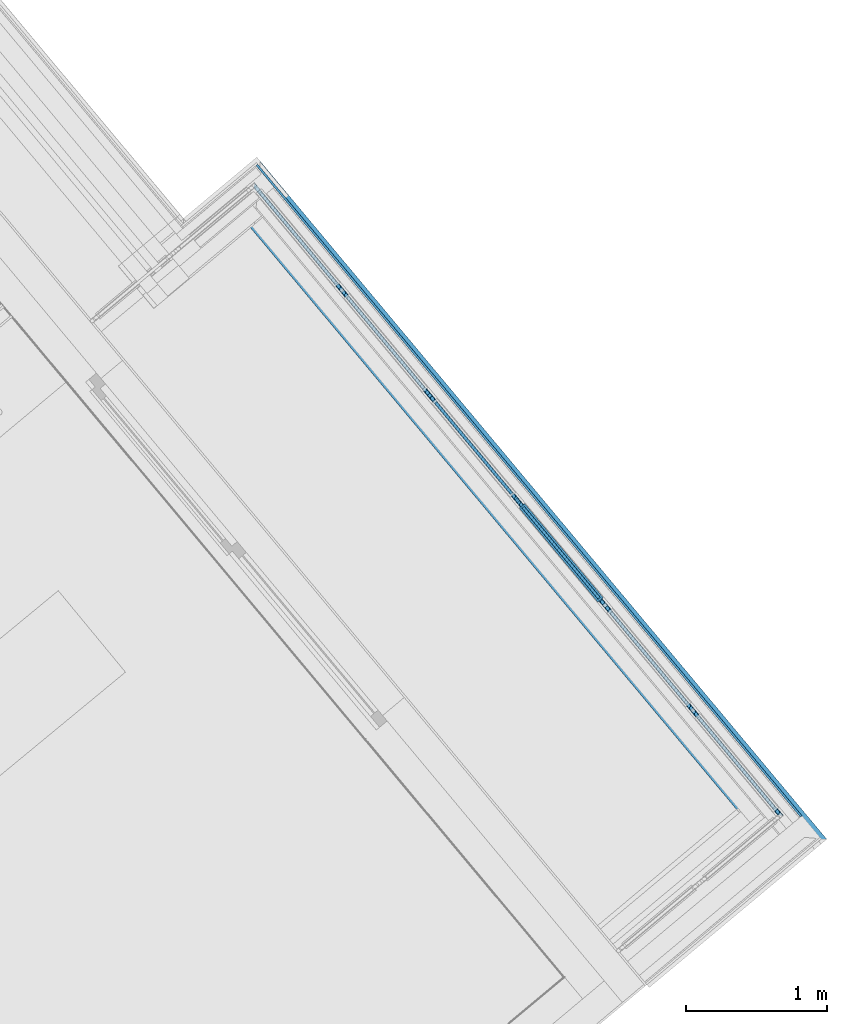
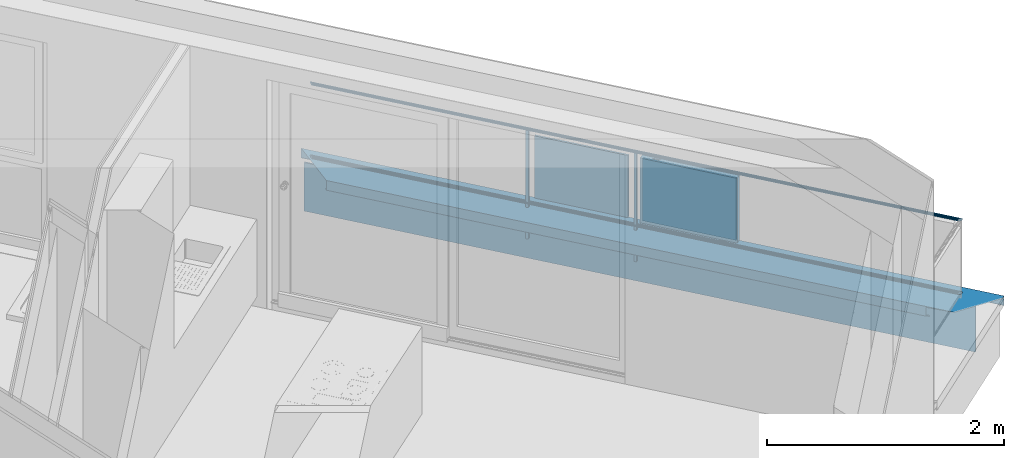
# One storey, part 41 of 61: 9 building element parts, 2 elements without a shape of their own.
"""IFC4 building model written with IfcOpenShell, lengths in metres."""

from ifc_helpers import new_model, entity, si_unit, converted_unit, derived_unit, direction, frame, origin_with_axes, place, context, subcontext, project, spatial, polygons, material, type_object, element, aggregate, save


model = new_model("IFC4")

# Units and contexts
model_context = context("Model", 3, precision=1e-05, world=origin_with_axes(), true_north=direction((0.0, 1.0)))
body_context = subcontext(model_context, "Body", "Model", "MODEL_VIEW")
ifc_project = project(units=[si_unit("LENGTHUNIT", "METRE"), si_unit("AREAUNIT", "SQUARE_METRE"), si_unit("VOLUMEUNIT", "CUBIC_METRE"), converted_unit("PLANEANGLEUNIT", "DEGREE", entity("IfcPlaneAngleMeasure", 0.0174532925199), si_unit("PLANEANGLEUNIT", "RADIAN"), dimensions=[0, 0, 0, 0, 0, 0, 0]), converted_unit("TIMEUNIT", "Year", entity("IfcTimeMeasure", 31556926.0), si_unit("TIMEUNIT", "SECOND"), dimensions=[0, 0, 1, 0, 0, 0, 0]), si_unit("MASSUNIT", "GRAM", prefix="KILO"), si_unit("THERMODYNAMICTEMPERATUREUNIT", "DEGREE_CELSIUS"), si_unit("LUMINOUSINTENSITYUNIT", "LUMEN"), si_unit("ENERGYUNIT", "JOULE", prefix="MEGA"), derived_unit("THERMALCONDUCTANCEUNIT", [(si_unit("POWERUNIT", "WATT"), 1), (si_unit("LENGTHUNIT", "METRE"), -1), (si_unit("THERMODYNAMICTEMPERATUREUNIT", "KELVIN"), -1)]), derived_unit("SPECIFICHEATCAPACITYUNIT", [(si_unit("ENERGYUNIT", "JOULE"), 1), (si_unit("MASSUNIT", "GRAM", prefix="KILO"), -1), (si_unit("THERMODYNAMICTEMPERATUREUNIT", "KELVIN"), -1)]), derived_unit("MASSDENSITYUNIT", [(si_unit("MASSUNIT", "GRAM", prefix="KILO"), 1), (si_unit("VOLUMEUNIT", "CUBIC_METRE"), -1)])], contexts=[model_context])

# Site, building, storey
site_placement = place(None, frame((-0.00153261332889, -0.00661245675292, 0.0), z_axis=(0.0, 0.0, 1.0), x_axis=(1.0, 0.0, 0.0)))
site = spatial("IfcSite", under=ifc_project, at=site_placement, Name="Gelände", CompositionType="ELEMENT")
building_placement = place(site_placement, origin_with_axes())
building = spatial("IfcBuilding", under=site, at=building_placement, Name="Gebäude", CompositionType="ELEMENT")
storey_placement = place(building_placement, frame((0.0, 0.0, 5.7), z_axis=(0.0, 0.0, 1.0), x_axis=(1.0, 0.0, 0.0)))
storey = spatial("IfcBuildingStorey", under=building, at=storey_placement, Name="DG1", CompositionType="ELEMENT", Elevation=5.7)

# Wall, building element parts
wall_type = type_object("IfcWallType", Name="Bauteil - Attika Balkon 356 x 610", PredefinedType="NOTDEFINED")
wall_placement = place(storey_placement, frame((10.5963712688, 25.814957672, -0.2), z_axis=(0.0, 0.0, 1.0), x_axis=(0.641206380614, -0.767368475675, 0.0)))
wall = element("IfcWall", 1, at=wall_placement, inside=storey, type_object=wall_type, Name="Wand-004", PredefinedType="NOTDEFINED")
ifc_material_1 = material(Name="Zementputz")
building_element_part_1_placement = place(wall_placement, origin_with_axes())
building_element_part_1 = element("IfcBuildingElementPart", 2, at=building_element_part_1_placement, material=ifc_material_1, Name="Zementputz", PredefinedType="NOTDEFINED", context=body_context, shape_type="Tessellation", body=[
    polygons([(5.82966833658, 0.199999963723, 0.500000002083), (5.82966827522, 0.214999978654, 0.500000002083), (-0.200000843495, 0.214999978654, 0.500000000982), (-0.200000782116, 0.199999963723, 0.500000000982), (5.82966827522, 0.214999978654, 0.498915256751), (5.82966833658, 0.199999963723, 0.498915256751), (5.82966827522, 0.214999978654, 0.498822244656), (5.82966827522, 0.214999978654, 0.496604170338), (5.82966827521, 0.214999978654, 0.491006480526), (5.82966827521, 0.214999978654, 0.488695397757), (5.82966827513, 0.214999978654, 0.335), (5.82966827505, 0.214999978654, 0.200000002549), (5.82966827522, 0.214999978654, 0.0), (-0.200000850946, 0.214999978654, 0.0), (-0.200000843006, 0.214999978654, 0.2), (-0.200000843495, 0.214999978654, 0.334999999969), (-0.200000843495, 0.214999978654, 0.496604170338), (-0.200000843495, 0.214999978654, 0.498915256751), (-0.200000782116, 0.199999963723, 0.498915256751), (-0.200000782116, 0.199999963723, 0.496604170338), (-0.200000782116, 0.199999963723, 0.334999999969), (-0.200000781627, 0.199999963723, 0.2), (5.82966833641, 0.199999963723, 0.200000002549), (5.82966833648, 0.199999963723, 0.335), (5.82966833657, 0.199999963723, 0.488695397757), (5.82966833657, 0.199999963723, 0.491006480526), (5.82966833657, 0.199999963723, 0.496604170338), (5.82966833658, 0.199999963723, 0.498822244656), (5.82966833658, 0.199999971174, 0.0), (-0.200000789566, 0.199999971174, 0.0)], [[[1, 2, 3, 4]], [[5, 2, 1, 6]], [[2, 5, 7, 8, 9, 10, 11, 12, 13, 14, 15, 16, 17, 18, 3]], [[4, 3, 18, 19]], [[6, 1, 4, 19, 20, 21, 22, 23, 24, 25, 26, 27, 28]], [[5, 6, 28, 7]], [[7, 28, 27, 8]], [[8, 27, 26, 9]], [[9, 26, 25, 10]], [[10, 25, 24, 11]], [[11, 24, 23, 12]], [[12, 23, 29, 13]], [[13, 29, 30, 14]], [[22, 15, 14, 30]], [[21, 16, 15, 22]], [[20, 17, 16, 21]], [[19, 18, 17, 20]], [[29, 23, 22, 30]]], closed=True),
])
ifc_material_2 = material(Name="Stahl")
building_element_part_2_placement = place(wall_placement, origin_with_axes())
building_element_part_2 = element("IfcBuildingElementPart", 3, at=building_element_part_2_placement, material=ifc_material_2, Name="Stahl", PredefinedType="NOTDEFINED", context=body_context, shape_type="Tessellation", body=[
    polygons([(0.113601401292, -0.113600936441, 0.498915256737), (0.113601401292, -0.11360093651, 0.499999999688), (0.113601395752, -0.112247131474, 0.499999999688), (0.113601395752, -0.112247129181, 0.498915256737), (0.113601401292, -0.113600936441, 0.497561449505), (5.49897152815, -0.113600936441, 0.497561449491), (5.49897152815, -0.113600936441, 0.498822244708), (5.49897152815, -0.113600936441, 0.498915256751), (5.49897152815, -0.11360093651, 0.499999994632), (5.49897152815, -0.113600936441, 0.506731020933), (5.49897152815, -0.113600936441, 0.509050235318), (5.49897152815, -0.113600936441, 0.509099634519), (5.49897152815, -0.11360093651, 0.51136132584), (5.49897152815, -0.11360093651, 0.511410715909), (5.49897152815, -0.1136009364, 0.519224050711), (5.49897152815, -0.1136009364, 0.519273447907), (5.49897152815, -0.11360093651, 0.560000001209), (5.49897152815, -0.11360093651, 0.567947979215), (5.49897152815, -0.11360093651, 0.57388065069), (5.49897152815, -0.11360093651, 0.575576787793), (5.49897152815, -0.11360093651, 0.575979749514), (5.49897152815, -0.11360093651, 0.57982217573), (5.49897152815, -0.11360093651, 0.581921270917), (5.49897152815, -0.11360093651, 0.584015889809), (5.49897152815, -0.11360093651, 0.586106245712), (5.49897153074, -0.11360093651, 0.587937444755), (5.71744240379, -0.11360093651, 0.595846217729), (5.75350991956, -0.11360093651, 0.597151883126), (0.113601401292, -0.11360093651, 0.597151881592), (0.113601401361, -0.11360093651, 0.595846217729), (0.113601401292, -0.11360093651, 0.586106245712), (0.113601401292, -0.11360093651, 0.584015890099), (0.113601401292, -0.11360093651, 0.581921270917), (0.113601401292, -0.11360093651, 0.57982217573), (0.113601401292, -0.11360093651, 0.575576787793), (0.113601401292, -0.11360093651, 0.559999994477), (0.113601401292, -0.1136009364, 0.519273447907), (0.113601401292, -0.11360093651, 0.511410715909), (0.113601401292, -0.113600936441, 0.509099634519), (0.113601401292, -0.113600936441, 0.506731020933), (0.113601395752, -0.112247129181, 0.506731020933), (0.113601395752, -0.112247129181, 0.509099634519), (0.113601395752, -0.112247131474, 0.511410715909), (0.113601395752, -0.112247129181, 0.519273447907), (0.113601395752, -0.112247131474, 0.559999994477), (0.113601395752, -0.112247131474, 0.575576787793), (0.113601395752, -0.112247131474, 0.57982217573), (0.113601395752, -0.112247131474, 0.581921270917), (0.113601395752, -0.112247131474, 0.584015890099), (0.113601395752, -0.112247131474, 0.586106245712), (0.113601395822, -0.112247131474, 0.595846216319), (5.71744235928, -0.112247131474, 0.595846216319), (5.4989715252, -0.112247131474, 0.587937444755), (5.49897152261, -0.112247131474, 0.586106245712), (5.49897152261, -0.112247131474, 0.584015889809), (5.49897152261, -0.112247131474, 0.581921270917), (5.49897152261, -0.112247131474, 0.57982217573), (5.49897152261, -0.112247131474, 0.575979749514), (5.49897152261, -0.112247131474, 0.575576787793), (5.49897152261, -0.112247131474, 0.57388065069), (5.49897152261, -0.112247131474, 0.567947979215), (5.49897152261, -0.112247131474, 0.560000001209), (5.49897152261, -0.112247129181, 0.519273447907), (5.49897152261, -0.112247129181, 0.519224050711), (5.49897152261, -0.112247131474, 0.511410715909), (5.49897152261, -0.112247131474, 0.51136132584), (5.49897152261, -0.112247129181, 0.509099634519), (5.49897152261, -0.112247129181, 0.509050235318), (5.49897152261, -0.112247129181, 0.506731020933), (5.49897152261, -0.112247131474, 0.499999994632), (5.49897152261, -0.112247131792, 0.498915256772), (0.113601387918, -0.110332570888, 0.498915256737), (0.113601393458, -0.11168637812, 0.497561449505), (0.11264411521, -0.112643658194, 0.496604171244), (5.49897152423, -0.112643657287, 0.496604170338), (5.49897151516, -0.110425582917, 0.498822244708), (5.49897151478, -0.110332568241, 0.498915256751), (6.06894466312, 0.23927660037, 0.608570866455), (6.06894481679, 0.201708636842, 0.608570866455), (-0.201709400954, 0.20170855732, 0.608570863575), (6.06982112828, 0.202589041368, 0.608602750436), (6.0711685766, 0.202589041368, 0.608602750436), (6.07116841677, 0.241343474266, 0.610006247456), (5.82966915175, 0.241343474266, 0.610006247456), (5.82966915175, 0.242707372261, 0.610055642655), (-0.242708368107, 0.242707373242, 0.610055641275), (-0.203953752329, 0.203952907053, 0.608652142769), (0.113601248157, -0.0761775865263, 0.597151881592), (-0.201709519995, 0.239276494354, 0.608570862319), (0.112247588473, -0.112247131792, 0.498915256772), (5.49897151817, -0.111162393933, 0.499999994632), (5.52966960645, -0.111162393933, 0.499999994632), (5.52966957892, -0.104431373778, 0.506731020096), (0.104431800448, -0.104431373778, 0.506731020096), (0.11116284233, -0.111162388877, 0.499999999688), (0.112247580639, -0.110332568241, 0.498915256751), (0.111162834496, -0.109247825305, 0.499999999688), (0.105342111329, -0.103427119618, 0.505820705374), (5.52966957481, -0.103427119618, 0.505820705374), (5.52966959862, -0.109247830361, 0.499999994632), (5.49897151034, -0.109247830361, 0.499999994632), (6.06982097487, 0.240093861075, 0.608602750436), (6.07116842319, 0.240093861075, 0.608602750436), (6.07116841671, 0.24135992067, 0.60865214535), (6.07116841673, 0.241353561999, 0.511410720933), (6.0711684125, 0.242707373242, 0.511410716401), (6.0711684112, 0.242707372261, 0.610006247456), (5.82966915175, 0.242707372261, 0.610006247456), (-0.24135455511, 0.242707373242, 0.511410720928), (-0.241355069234, 0.242707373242, 0.519273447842), (-0.241357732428, 0.242707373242, 0.559999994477), (-0.241358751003, 0.242707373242, 0.575576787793), (-0.241359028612, 0.242707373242, 0.57982217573), (-0.241359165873, 0.242707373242, 0.581921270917), (-0.241359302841, 0.242707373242, 0.584015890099), (-0.241359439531, 0.242707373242, 0.586106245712), (-0.241360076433, 0.242707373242, 0.595846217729), (-0.241360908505, 0.242707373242, 0.608570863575), (-0.241360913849, 0.242707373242, 0.608652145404), (-0.203953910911, 0.242707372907, 0.608652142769), (6.06981460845, 0.242707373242, 0.511410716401), (6.06976521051, 0.242707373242, 0.511410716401), (6.06981460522, 0.242707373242, 0.51136132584), (6.0711684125, 0.242707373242, 0.51136132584), (6.0711684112, 0.242707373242, 0.510056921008), (-0.240793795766, 0.242707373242, 0.510056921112), (-0.239439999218, 0.242707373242, 0.511410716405), (-0.203953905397, 0.24135985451, 0.608652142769), (-0.241354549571, 0.241353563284, 0.511410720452), (-0.239439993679, 0.241353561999, 0.511410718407), (6.06976521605, 0.241353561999, 0.511410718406), (6.06981461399, 0.241353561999, 0.511410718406), (-0.241360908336, 0.241359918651, 0.608652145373), (-0.241360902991, 0.241359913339, 0.608570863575), (-0.241360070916, 0.241359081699, 0.595846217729), (-0.241359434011, 0.241358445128, 0.586106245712), (-0.241359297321, 0.241358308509, 0.584015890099), (-0.241359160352, 0.241358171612, 0.581921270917), (-0.24135902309, 0.241358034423, 0.57982217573), (-0.241358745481, 0.241357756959, 0.575576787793), (-0.241357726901, 0.241356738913, 0.559999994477), (-0.241355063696, 0.241354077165, 0.519273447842), (6.06976522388, 0.239439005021, 0.511410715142), (6.06981461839, 0.239488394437, 0.51136132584), (6.07116842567, 0.239488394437, 0.51136132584), (6.07116841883, 0.240842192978, 0.510007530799), (6.0711684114, 0.242657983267, 0.510007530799), (-0.241751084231, 0.241750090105, 0.509099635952), (6.07026053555, 0.241750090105, 0.509099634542), (-0.239439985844, 0.239439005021, 0.511410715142), (-0.232581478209, 0.234495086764, 0.518269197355), (-0.233491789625, 0.233490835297, 0.519273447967), (6.06981516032, 0.233490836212, 0.519273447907), (6.06981515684, 0.233540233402, 0.519224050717), (6.06195191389, 0.233540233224, 0.519224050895), (-0.232581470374, 0.232580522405, 0.518269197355), (6.06290676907, 0.232580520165, 0.518269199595), (6.06195191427, 0.233446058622, 0.519224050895), (6.06981515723, 0.233446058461, 0.519224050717)], [[[1, 2, 3, 4]], [[1, 5, 6, 7, 8, 9, 10, 11, 12, 13, 14, 15, 16, 17, 18, 19, 20, 21, 22, 23, 24, 25, 26, 27, 28, 29, 30, 31, 32, 33, 34, 35, 36, 37, 38, 39, 40, 2]], [[2, 40, 41, 3]], [[4, 3, 41, 42, 43, 44, 45, 46, 47, 48, 49, 50, 51, 52, 53, 54, 55, 56, 57, 58, 59, 60, 61, 62, 63, 64, 65, 66, 67, 68, 69, 70, 71]], [[5, 1, 4, 72, 73]], [[5, 74, 75, 6]], [[7, 6, 75, 76]], [[8, 7, 76, 77, 71]], [[9, 8, 71, 70]], [[9, 70, 69, 10]], [[11, 10, 69, 68]], [[12, 11, 68, 67]], [[13, 12, 67, 66]], [[14, 13, 66, 65]], [[14, 65, 64, 15]], [[16, 15, 64, 63]], [[17, 16, 63, 62]], [[18, 17, 62, 61]], [[19, 18, 61, 60]], [[20, 19, 60, 59]], [[21, 20, 59, 58]], [[22, 21, 58, 57]], [[23, 22, 57, 56]], [[24, 23, 56, 55]], [[24, 55, 54, 25]], [[26, 25, 54, 53]], [[27, 26, 53, 52]], [[27, 52, 78, 79, 28]], [[80, 29, 28, 79, 81, 82, 83, 84, 85, 86, 87]], [[30, 29, 88, 51]], [[31, 30, 51, 50]], [[49, 32, 31, 50]], [[48, 33, 32, 49]], [[34, 33, 48, 47]], [[35, 34, 47, 46]], [[36, 35, 46, 45]], [[36, 45, 44, 37]], [[43, 38, 37, 44]], [[39, 38, 43, 42]], [[40, 39, 42, 41]], [[51, 88, 89, 78, 52]], [[90, 4, 71, 91, 92, 93, 94, 95]], [[4, 90, 96, 72]], [[74, 73, 72, 96, 97, 98, 99, 100, 101, 77, 76, 75]], [[74, 5, 73]], [[71, 77, 101, 91]], [[81, 79, 78, 102]], [[29, 80, 89, 88]], [[82, 81, 102, 103]], [[82, 103, 104, 105, 106, 107, 83]], [[84, 83, 107, 108]], [[84, 108, 85]], [[109, 110, 111, 112, 113, 114, 115, 116, 117, 118, 119, 120, 86, 85, 108, 107, 106, 121, 122, 123, 124, 125, 126, 127]], [[87, 86, 120, 128]], [[80, 87, 128, 89]], [[128, 104, 103, 102, 78, 89]], [[100, 92, 91, 101]], [[92, 100, 99, 93]], [[98, 94, 93, 99]], [[97, 95, 94, 98]], [[96, 90, 95, 97]], [[129, 130, 131, 132, 105, 104, 128, 133, 134, 135, 136, 137, 138, 139, 140, 141, 142]], [[105, 132, 121, 106]], [[129, 142, 110, 109]], [[142, 141, 111, 110]], [[141, 140, 112, 111]], [[140, 139, 113, 112]], [[139, 138, 114, 113]], [[138, 137, 115, 114]], [[137, 136, 116, 115]], [[136, 135, 117, 116]], [[135, 134, 118, 117]], [[134, 133, 119, 118]], [[133, 128, 120, 119]], [[132, 131, 122, 121]], [[143, 144, 123, 122, 131]], [[144, 145, 124, 123]], [[145, 146, 147, 125, 124]], [[148, 126, 125, 147, 149]], [[150, 130, 127, 126, 148]], [[130, 129, 109, 127]], [[151, 152, 153, 154, 155, 131, 130]], [[156, 150, 148, 149, 146, 145, 144, 143, 157]], [[157, 143, 131, 155, 158]], [[146, 149, 147]], [[150, 156, 151, 130]], [[151, 156, 152]], [[152, 156, 157, 158, 159, 153]], [[153, 159, 154]], [[154, 159, 158, 155]]], closed=True),
])
aggregate(wall, [building_element_part_1, building_element_part_2])

# Space
space_placement = place(storey_placement, frame((9.89495575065, 25.0808160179, 0.22), z_axis=(0.0, 0.0, 1.0), x_axis=(-0.767365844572, -0.641209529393, 0.0)))
space = spatial("IfcSpace", under=storey, at=space_placement, CompositionType="ELEMENT", PredefinedType="NOTDEFINED")

# Railing, building element parts
railing_type = type_object("IfcRailingType", Name="Geländerart", PredefinedType="NOTDEFINED")
railing_placement = place(space_placement, frame((0.391162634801, 5.51606821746, 0.16), z_axis=(0.0, 0.0, 1.0), x_axis=(-0.767365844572, 0.641209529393, 0.0)))
railing = element("IfcRailing", 4, at=railing_placement, inside=space, type_object=railing_type, Name="Geländer - 001", PredefinedType="NOTDEFINED")
ifc_material_3 = material(Name="Aluminium")
building_element_part_3_placement = place(railing_placement, origin_with_axes())
building_element_part_3 = element("IfcBuildingElementPart", 5, at=building_element_part_3_placement, material=ifc_material_3, Name="Aluminium", PredefinedType="NOTDEFINED", context=body_context, shape_type="Tessellation", body=[
    polygons([(1.19369716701, 0.886396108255, 0.825), (1.1940181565, 0.886367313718, 0.827604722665), (-2.52461931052, 5.33785427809, 0.827604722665), (-2.52464808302, 5.33753326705, 0.825), (1.1940181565, 0.886367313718, 0.822395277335), (1.19497137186, 0.886281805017, 0.81986969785), (1.19652785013, 0.88614218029, 0.8175), (1.1986402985, 0.885952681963, 0.815358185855), (1.2012445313, 0.885719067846, 0.813509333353), (1.20426142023, 0.885448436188, 0.812009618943), (1.20759929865, 0.885149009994, 0.810904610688), (1.21115674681, 0.884829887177, 0.810227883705), (1.21482567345, 0.884500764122, 0.81), (1.21849460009, 0.884171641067, 0.810227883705), (1.22205204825, 0.88385251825, 0.810904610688), (1.22538992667, 0.883553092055, 0.812009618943), (1.2284068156, 0.883282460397, 0.813509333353), (1.2310110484, 0.883048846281, 0.815358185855), (1.23312349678, 0.882859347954, 0.8175), (1.23467997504, 0.882719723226, 0.81986969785), (1.23563319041, 0.882634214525, 0.822395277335), (1.23595417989, 0.882605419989, 0.825), (1.23563319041, 0.882634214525, 0.827604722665), (1.23467997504, 0.882719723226, 0.83013030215), (1.23312349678, 0.882859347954, 0.8325), (1.2310110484, 0.883048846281, 0.834641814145), (1.2284068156, 0.883282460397, 0.836490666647), (1.22538992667, 0.883553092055, 0.837990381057), (1.22205204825, 0.88385251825, 0.839095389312), (1.21849460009, 0.884171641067, 0.839772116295), (1.21482567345, 0.884500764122, 0.84), (1.21115674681, 0.884829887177, 0.839772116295), (1.20759929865, 0.885149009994, 0.839095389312), (1.20426142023, 0.885448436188, 0.837990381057), (1.2012445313, 0.885719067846, 0.836490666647), (1.1986402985, 0.885952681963, 0.834641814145), (1.19652785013, 0.88614218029, 0.8325), (1.19497137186, 0.886281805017, 0.83013030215), (-2.52453386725, 5.33880755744, 0.83013030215), (-2.52439434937, 5.34036414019, 0.8325), (-2.52420499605, 5.34247673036, 0.834641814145), (-2.5239715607, 5.34508113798, 0.836490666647), (-2.52370113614, 5.34809822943, 0.837990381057), (-2.52340193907, 5.35143633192, 0.839095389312), (-2.52308306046, 5.35499401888, 0.839772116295), (-2.52275418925, 5.35866319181, 0.84), (-2.52242531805, 5.36233236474, 0.839772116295), (-2.52210643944, 5.36589005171, 0.839095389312), (-2.52180724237, 5.36922815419, 0.837990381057), (-2.52153681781, 5.37224524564, 0.836490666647), (-2.52130338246, 5.37484965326, 0.834641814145), (-2.52111402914, 5.37696224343, 0.8325), (-2.52097451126, 5.37851882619, 0.83013030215), (-2.52088906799, 5.37947210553, 0.827604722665), (-2.52086029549, 5.37979311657, 0.825), (-2.52088906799, 5.37947210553, 0.822395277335), (-2.52097451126, 5.37851882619, 0.81986969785), (-2.52111402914, 5.37696224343, 0.8175), (-2.52130338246, 5.37484965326, 0.815358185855), (-2.52153681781, 5.37224524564, 0.813509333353), (-2.52180724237, 5.36922815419, 0.812009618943), (-2.52210643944, 5.36589005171, 0.810904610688), (-2.52242531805, 5.36233236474, 0.810227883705), (-2.52275418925, 5.35866319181, 0.81), (-2.52308306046, 5.35499401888, 0.810227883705), (-2.52340193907, 5.35143633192, 0.810904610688), (-2.52370113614, 5.34809822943, 0.812009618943), (-2.5239715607, 5.34508113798, 0.813509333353), (-2.52420499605, 5.34247673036, 0.815358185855), (-2.52439434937, 5.34036414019, 0.8175), (-2.52453386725, 5.33880755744, 0.81986969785), (-2.52461931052, 5.33785427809, 0.822395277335)], [[[1, 2, 3, 4]], [[1, 5, 6, 7, 8, 9, 10, 11, 12, 13, 14, 15, 16, 17, 18, 19, 20, 21, 22, 23, 24, 25, 26, 27, 28, 29, 30, 31, 32, 33, 34, 35, 36, 37, 38, 2]], [[2, 38, 39, 3]], [[4, 3, 39, 40, 41, 42, 43, 44, 45, 46, 47, 48, 49, 50, 51, 52, 53, 54, 55, 56, 57, 58, 59, 60, 61, 62, 63, 64, 65, 66, 67, 68, 69, 70, 71, 72]], [[5, 1, 4, 72]], [[6, 5, 72, 71]], [[7, 6, 71, 70]], [[8, 7, 70, 69]], [[9, 8, 69, 68]], [[10, 9, 68, 67]], [[11, 10, 67, 66]], [[12, 11, 66, 65]], [[13, 12, 65, 64]], [[14, 13, 64, 63]], [[15, 14, 63, 62]], [[16, 15, 62, 61]], [[17, 16, 61, 60]], [[18, 17, 60, 59]], [[19, 18, 59, 58]], [[20, 19, 58, 57]], [[21, 20, 57, 56]], [[22, 21, 56, 55]], [[23, 22, 55, 54]], [[24, 23, 54, 53]], [[25, 24, 53, 52]], [[26, 25, 52, 51]], [[27, 26, 51, 50]], [[28, 27, 50, 49]], [[29, 28, 49, 48]], [[30, 29, 48, 47]], [[31, 30, 47, 46]], [[32, 31, 46, 45]], [[33, 32, 45, 44]], [[34, 33, 44, 43]], [[35, 34, 43, 42]], [[36, 35, 42, 41]], [[37, 36, 41, 40]], [[38, 37, 40, 39]]], closed=True),
])
building_element_part_4_placement = place(railing_placement, origin_with_axes())
building_element_part_4 = element("IfcBuildingElementPart", 6, at=building_element_part_4_placement, material=ifc_material_3, Name="Aluminium", PredefinedType="NOTDEFINED", context=body_context, shape_type="Tessellation", body=[
    polygons([(1.19369716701, 0.886396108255, 0.07), (1.1940181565, 0.886367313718, 0.072604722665), (-2.52461931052, 5.33785427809, 0.072604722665), (-2.52464808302, 5.33753326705, 0.07), (1.1940181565, 0.886367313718, 0.067395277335), (1.19497137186, 0.886281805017, 0.0648696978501), (1.19652785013, 0.88614218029, 0.0625), (1.1986402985, 0.885952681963, 0.0603581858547), (1.2012445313, 0.885719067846, 0.0585093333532), (1.20426142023, 0.885448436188, 0.0570096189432), (1.20759929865, 0.885149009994, 0.0559046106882), (1.21115674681, 0.884829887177, 0.0552278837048), (1.21482567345, 0.884500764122, 0.055), (1.21849460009, 0.884171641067, 0.0552278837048), (1.22205204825, 0.88385251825, 0.0559046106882), (1.22538992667, 0.883553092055, 0.0570096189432), (1.2284068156, 0.883282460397, 0.0585093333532), (1.2310110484, 0.883048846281, 0.0603581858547), (1.23312349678, 0.882859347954, 0.0625), (1.23467997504, 0.882719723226, 0.0648696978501), (1.23563319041, 0.882634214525, 0.067395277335), (1.23595417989, 0.882605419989, 0.07), (1.23563319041, 0.882634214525, 0.072604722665), (1.23467997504, 0.882719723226, 0.0751303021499), (1.23312349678, 0.882859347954, 0.0775), (1.2310110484, 0.883048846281, 0.0796418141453), (1.2284068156, 0.883282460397, 0.0814906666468), (1.22538992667, 0.883553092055, 0.0829903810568), (1.22205204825, 0.88385251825, 0.0840953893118), (1.21849460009, 0.884171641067, 0.0847721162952), (1.21482567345, 0.884500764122, 0.085), (1.21115674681, 0.884829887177, 0.0847721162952), (1.20759929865, 0.885149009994, 0.0840953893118), (1.20426142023, 0.885448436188, 0.0829903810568), (1.2012445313, 0.885719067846, 0.0814906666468), (1.1986402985, 0.885952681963, 0.0796418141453), (1.19652785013, 0.88614218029, 0.0775), (1.19497137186, 0.886281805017, 0.0751303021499), (-2.52453386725, 5.33880755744, 0.0751303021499), (-2.52439434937, 5.34036414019, 0.0775), (-2.52420499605, 5.34247673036, 0.0796418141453), (-2.5239715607, 5.34508113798, 0.0814906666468), (-2.52370113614, 5.34809822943, 0.0829903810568), (-2.52340193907, 5.35143633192, 0.0840953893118), (-2.52308306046, 5.35499401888, 0.0847721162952), (-2.52275418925, 5.35866319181, 0.085), (-2.52242531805, 5.36233236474, 0.0847721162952), (-2.52210643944, 5.36589005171, 0.0840953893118), (-2.52180724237, 5.36922815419, 0.0829903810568), (-2.52153681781, 5.37224524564, 0.0814906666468), (-2.52130338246, 5.37484965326, 0.0796418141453), (-2.52111402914, 5.37696224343, 0.0775), (-2.52097451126, 5.37851882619, 0.0751303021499), (-2.52088906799, 5.37947210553, 0.072604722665), (-2.52086029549, 5.37979311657, 0.07), (-2.52088906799, 5.37947210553, 0.067395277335), (-2.52097451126, 5.37851882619, 0.0648696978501), (-2.52111402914, 5.37696224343, 0.0625), (-2.52130338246, 5.37484965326, 0.0603581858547), (-2.52153681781, 5.37224524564, 0.0585093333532), (-2.52180724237, 5.36922815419, 0.0570096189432), (-2.52210643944, 5.36589005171, 0.0559046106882), (-2.52242531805, 5.36233236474, 0.0552278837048), (-2.52275418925, 5.35866319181, 0.055), (-2.52308306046, 5.35499401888, 0.0552278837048), (-2.52340193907, 5.35143633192, 0.0559046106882), (-2.52370113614, 5.34809822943, 0.0570096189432), (-2.5239715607, 5.34508113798, 0.0585093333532), (-2.52420499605, 5.34247673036, 0.0603581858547), (-2.52439434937, 5.34036414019, 0.0625), (-2.52453386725, 5.33880755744, 0.0648696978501), (-2.52461931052, 5.33785427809, 0.067395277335)], [[[1, 2, 3, 4]], [[1, 5, 6, 7, 8, 9, 10, 11, 12, 13, 14, 15, 16, 17, 18, 19, 20, 21, 22, 23, 24, 25, 26, 27, 28, 29, 30, 31, 32, 33, 34, 35, 36, 37, 38, 2]], [[2, 38, 39, 3]], [[4, 3, 39, 40, 41, 42, 43, 44, 45, 46, 47, 48, 49, 50, 51, 52, 53, 54, 55, 56, 57, 58, 59, 60, 61, 62, 63, 64, 65, 66, 67, 68, 69, 70, 71, 72]], [[5, 1, 4, 72]], [[6, 5, 72, 71]], [[7, 6, 71, 70]], [[8, 7, 70, 69]], [[9, 8, 69, 68]], [[10, 9, 68, 67]], [[11, 10, 67, 66]], [[12, 11, 66, 65]], [[13, 12, 65, 64]], [[14, 13, 64, 63]], [[15, 14, 63, 62]], [[16, 15, 62, 61]], [[17, 16, 61, 60]], [[18, 17, 60, 59]], [[19, 18, 59, 58]], [[20, 19, 58, 57]], [[21, 20, 57, 56]], [[22, 21, 56, 55]], [[23, 22, 55, 54]], [[24, 23, 54, 53]], [[25, 24, 53, 52]], [[26, 25, 52, 51]], [[27, 26, 51, 50]], [[28, 27, 50, 49]], [[29, 28, 49, 48]], [[30, 29, 48, 47]], [[31, 30, 47, 46]], [[32, 31, 46, 45]], [[33, 32, 45, 44]], [[34, 33, 44, 43]], [[35, 34, 43, 42]], [[36, 35, 42, 41]], [[37, 36, 41, 40]], [[38, 37, 40, 39]]], closed=True),
])
ifc_material_4 = material(Name="Profilit")
building_element_part_5_placement = place(railing_placement, origin_with_axes())
building_element_part_5 = element("IfcBuildingElementPart", 7, at=building_element_part_5_placement, material=ifc_material_4, Name="Profilit", PredefinedType="NOTDEFINED", context=body_context, shape_type="Tessellation", body=[
    polygons([(-0.619966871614, 3.06528652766, 0.135), (-0.0803807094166, 2.41936156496, 0.135), (-0.0803807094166, 2.41936156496, 0.775), (-0.619966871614, 3.06528652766, 0.775), (-0.0650316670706, 2.43218369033, 0.135), (-0.604617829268, 3.07810865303, 0.135), (-0.0650316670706, 2.43218369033, 0.775), (-0.604617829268, 3.07810865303, 0.775)], [[[1, 2, 3, 4]], [[5, 2, 1, 6]], [[7, 3, 2, 5]], [[4, 3, 7, 8]], [[1, 4, 8, 6]], [[7, 5, 6, 8]]], closed=True),
])
building_element_part_6_placement = place(railing_placement, origin_with_axes())
building_element_part_6 = element("IfcBuildingElementPart", 8, at=building_element_part_6_placement, material=ifc_material_3, Name="Aluminium", PredefinedType="NOTDEFINED", context=body_context, shape_type="Tessellation", body=[
    polygons([(-0.129118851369, 2.48940329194, 0.12), (-0.173996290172, 2.54312494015, 0.12), (-0.173996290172, 2.54312494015, 0.095), (-0.129118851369, 2.48940329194, 0.095), (-0.125281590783, 2.49260882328, 0.12), (-0.170159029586, 2.54633047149, 0.12), (-0.170159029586, 2.54633047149, 0.095), (-0.125281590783, 2.49260882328, 0.095)], [[[1, 2, 3, 4]], [[5, 6, 2, 1]], [[2, 6, 7, 3]], [[4, 3, 7, 8]], [[1, 4, 8, 5]], [[8, 7, 6, 5]]], closed=True),
    polygons([(-0.559716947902, 3.0048613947, 0.79), (-0.514839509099, 2.95113974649, 0.79), (-0.514839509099, 2.95113974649, 0.795), (-0.559716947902, 3.0048613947, 0.795), (-0.555879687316, 3.00806692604, 0.79), (-0.511002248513, 2.95434527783, 0.79), (-0.511002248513, 2.95434527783, 0.795), (-0.555879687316, 3.00806692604, 0.795)], [[[1, 2, 3, 4]], [[5, 6, 2, 1]], [[2, 6, 7, 3]], [[4, 3, 7, 8]], [[1, 4, 8, 5]], [[8, 7, 6, 5]]], closed=True),
    polygons([(-0.043903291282, 2.4302885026, 0.12), (-0.0822758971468, 2.39823318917, 0.12), (-0.641095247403, 3.06718171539, 0.12), (-0.602722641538, 3.09923702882, 0.12), (-0.0567254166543, 2.44563754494, 0.14), (-0.0682371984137, 2.43602095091, 0.14), (-0.0650316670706, 2.43218369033, 0.135), (-0.0803807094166, 2.41936156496, 0.135), (-0.0835862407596, 2.42319882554, 0.14), (-0.0950980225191, 2.41358223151, 0.14), (-0.628273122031, 3.05183267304, 0.14), (-0.628273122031, 3.05183267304, 0.77), (-0.0950980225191, 2.41358223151, 0.77), (-0.0950980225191, 2.41358223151, 0.14), (-0.0822758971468, 2.39823318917, 0.12), (-0.0822758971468, 2.39823318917, 0.79), (-0.641095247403, 3.06718171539, 0.79), (-0.602722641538, 3.09923702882, 0.79), (-0.043903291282, 2.4302885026, 0.79), (-0.043903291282, 2.4302885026, 0.12), (-0.0567254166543, 2.44563754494, 0.14), (-0.0567254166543, 2.44563754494, 0.77), (-0.589900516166, 3.08388798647, 0.77), (-0.589900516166, 3.08388798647, 0.14), (-0.601412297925, 3.07427139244, 0.14), (-0.601412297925, 3.07427139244, 0.77), (-0.0682371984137, 2.43602095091, 0.77), (-0.0682371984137, 2.43602095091, 0.14), (-0.0650316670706, 2.43218369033, 0.135), (-0.0650316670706, 2.43218369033, 0.775), (-0.604617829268, 3.07810865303, 0.775), (-0.604617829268, 3.07810865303, 0.135), (-0.619966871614, 3.06528652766, 0.135), (-0.619966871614, 3.06528652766, 0.775), (-0.0803807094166, 2.41936156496, 0.775), (-0.0803807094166, 2.41936156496, 0.135), (-0.0835862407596, 2.42319882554, 0.14), (-0.0835862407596, 2.42319882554, 0.77), (-0.616761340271, 3.06144926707, 0.77), (-0.616761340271, 3.06144926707, 0.14)], [[[1, 2, 3, 4]], [[1, 5, 6, 7, 8, 9, 10, 2]], [[2, 10, 11, 12, 13, 14, 15, 16, 17, 3]], [[4, 3, 17, 18]], [[5, 1, 4, 18, 19, 20, 21, 22, 23, 24]], [[6, 5, 24, 25]], [[7, 6, 25, 26, 27, 28, 29, 30, 31, 32]], [[8, 7, 32, 33]], [[9, 8, 33, 34, 35, 36, 37, 38, 39, 40]], [[10, 9, 40, 11]], [[11, 40, 39, 12]], [[12, 39, 38, 13]], [[13, 38, 37, 14]], [[20, 15, 14, 37, 36, 29, 28, 21]], [[19, 16, 15, 20]], [[18, 17, 16, 19]], [[27, 22, 21, 28]], [[26, 23, 22, 27]], [[25, 24, 23, 26]], [[35, 30, 29, 36]], [[34, 31, 30, 35]], [[33, 32, 31, 34]]], closed=True),
])
building_element_part_7_placement = place(railing_placement, origin_with_axes())
building_element_part_7 = element("IfcBuildingElementPart", 9, at=building_element_part_7_placement, material=ifc_material_3, Name="Aluminium", PredefinedType="NOTDEFINED", context=body_context, shape_type="Tessellation", body=[
    polygons([(-0.652384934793, 3.13918895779, -0.3), (-0.671571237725, 3.12316130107, -0.3), (-0.671571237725, 3.12316130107, 0.82), (-0.652384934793, 3.13918895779, 0.82), (-0.636357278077, 3.12000265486, -0.3), (-0.65554358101, 3.10397499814, -0.3), (-0.65554358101, 3.10397499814, 0.82), (-0.636357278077, 3.12000265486, 0.82)], [[[1, 2, 3, 4]], [[1, 5, 6, 2]], [[2, 6, 7, 3]], [[4, 3, 7, 8]], [[5, 1, 4, 8]], [[6, 5, 8, 7]]], closed=True),
])
building_element_part_8_placement = place(railing_placement, origin_with_axes())
building_element_part_8 = element("IfcBuildingElementPart", 10, at=building_element_part_8_placement, material=ifc_material_4, Name="Profilit", PredefinedType="NOTDEFINED", context=body_context, shape_type="Tessellation", body=[
    polygons([(-1.24289684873, 3.8109802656, 0.135), (-0.703310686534, 3.1650553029, 0.135), (-0.703310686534, 3.1650553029, 0.775), (-1.24289684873, 3.8109802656, 0.775), (-0.687961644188, 3.17787742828, 0.135), (-1.22754780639, 3.82380239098, 0.135), (-0.687961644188, 3.17787742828, 0.775), (-1.22754780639, 3.82380239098, 0.775)], [[[1, 2, 3, 4]], [[5, 2, 1, 6]], [[7, 3, 2, 5]], [[4, 3, 7, 8]], [[1, 4, 8, 6]], [[7, 5, 6, 8]]], closed=True),
])
building_element_part_9_placement = place(railing_placement, origin_with_axes())
building_element_part_9 = element("IfcBuildingElementPart", 11, at=building_element_part_9_placement, material=ifc_material_3, Name="Aluminium", PredefinedType="NOTDEFINED", context=body_context, shape_type="Tessellation", body=[
    polygons([(-1.27531491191, 3.88488269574, -0.3), (-1.29450121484, 3.86885503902, -0.3), (-1.29450121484, 3.86885503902, 0.82), (-1.27531491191, 3.88488269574, 0.82), (-1.25928725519, 3.86569639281, -0.3), (-1.27847355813, 3.84966873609, -0.3), (-1.27847355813, 3.84966873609, 0.82), (-1.25928725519, 3.86569639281, 0.82)], [[[1, 2, 3, 4]], [[1, 5, 6, 2]], [[2, 6, 7, 3]], [[4, 3, 7, 8]], [[5, 1, 4, 8]], [[6, 5, 8, 7]]], closed=True),
])
aggregate(railing, [building_element_part_3, building_element_part_4, building_element_part_5, building_element_part_6, building_element_part_7, building_element_part_8, building_element_part_9])

save(model, "model.ifc")
